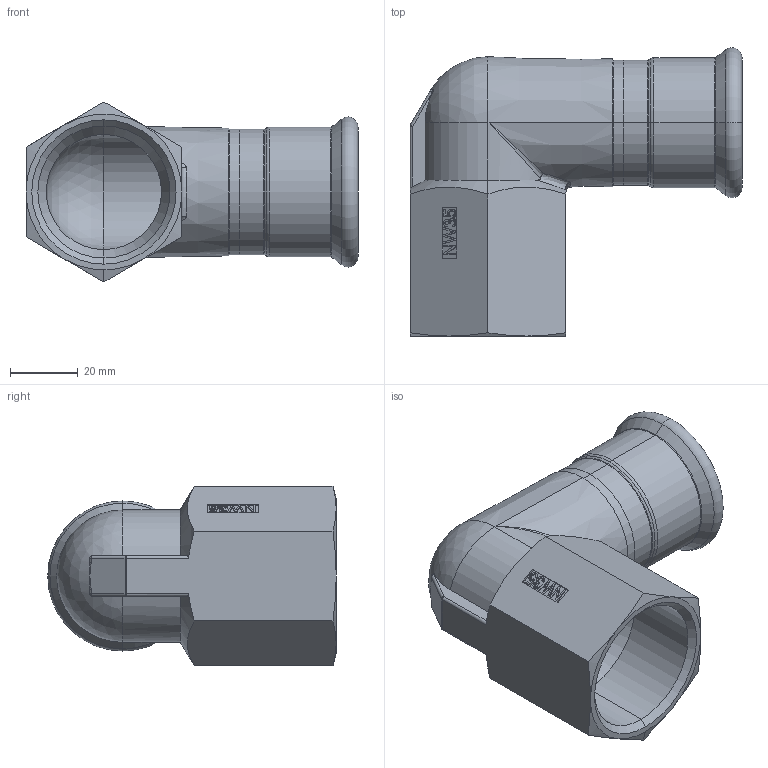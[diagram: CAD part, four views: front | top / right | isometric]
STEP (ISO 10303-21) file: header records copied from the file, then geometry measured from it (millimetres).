
FILE_DESCRIPTION (( 'STEP AP203' ), '1' );
FILE_NAME ('GDA5295.STEP', '2019-01-15T05:27:28', ( '' ), ( '' ), 'SwSTEP 2.0', 'SolidWorks 2015', '' );
FILE_SCHEMA (( 'CONFIG_CONTROL_DESIGN' ));
Length unit declared in the file: millimetre
Products named in the file (3): OD35｡ﾁ1.2; T-ｉ-01-35; GDA5295
Assembly tree (2 placements, depth 2):
  GDA5295
    OD35｡ﾁ1.2
    T-ｉ-01-35
Bounding box: 98 x 85.15 x 53.12 mm (x, y, z)
Volume: 55395.7 mm3; surface area: 35421.3 mm2
Topology: 2 solids, 2 shells, 165 faces, 402 edges, 242 vertices
Faces by surface type: plane 60, cylinder 30, cone 26, bspline 26, torus 17, sphere 6
Entity records: 6734 total; most frequent: CARTESIAN_POINT 2780, ORIENTED_EDGE 792, DIRECTION 706, EDGE_CURVE 396, AXIS2_PLACEMENT_3D 253, VERTEX_POINT 241, LINE 200, VECTOR 200
